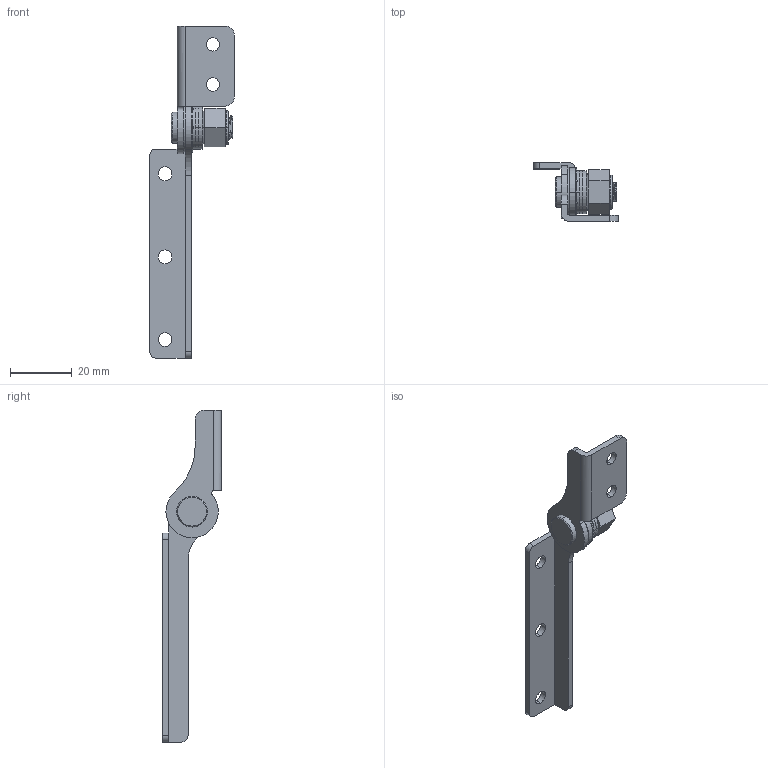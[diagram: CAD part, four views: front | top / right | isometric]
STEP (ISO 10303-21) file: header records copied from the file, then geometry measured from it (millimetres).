
FILE_DESCRIPTION (( 'STEP AP203' ), '1' );
FILE_NAME ('XG11-047-2R.STEP', '2025-07-26T07:54:45', ( '微软用户' ), ( '微软中国' ), 'SwSTEP 2.0', 'SolidWorks 2024', '' );
FILE_SCHEMA (( 'CONFIG_CONTROL_DESIGN' ));
Length unit declared in the file: millimetre
Products named in the file (1): XG11-047-2R
Bounding box: 27.5 x 19.06 x 107.81 mm (x, y, z)
Volume: 6576.3 mm3; surface area: 8662.8 mm2
Topology: 10 solids, 10 shells, 240 faces, 635 edges, 417 vertices
Faces by surface type: plane 102, cylinder 90, bspline 33, cone 13, torus 2
Entity records: 12015 total; most frequent: CARTESIAN_POINT 6102, ORIENTED_EDGE 1270, DIRECTION 1122, EDGE_CURVE 635, VERTEX_POINT 417, AXIS2_PLACEMENT_3D 407, LINE 308, VECTOR 308
